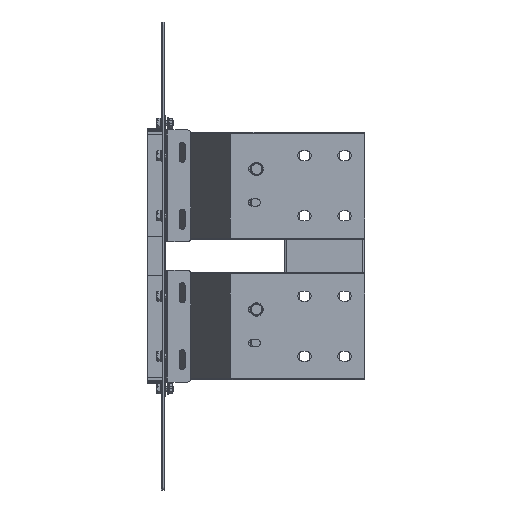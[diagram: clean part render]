
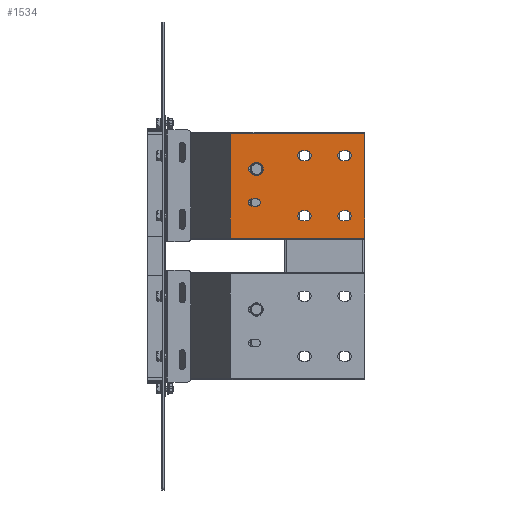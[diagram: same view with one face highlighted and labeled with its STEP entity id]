
A CAD part, front view. The second image highlights one B-rep face of the part: STEP entity #1534.
In plain terms, the highlighted planar face has unit normal (0, -1, 0).
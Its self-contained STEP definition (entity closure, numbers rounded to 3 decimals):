
#1290=AXIS2_PLACEMENT_3D('Circle Axis2P3D',#1288,#1289,$) ;
#1310=AXIS2_PLACEMENT_3D('Plane Axis2P3D',#1307,#1308,#1309) ;
#1348=AXIS2_PLACEMENT_3D('Circle Axis2P3D',#1346,#1347,$) ;
#1366=AXIS2_PLACEMENT_3D('Circle Axis2P3D',#1364,#1365,$) ;
#1382=AXIS2_PLACEMENT_3D('Circle Axis2P3D',#1380,#1381,$) ;
#1400=AXIS2_PLACEMENT_3D('Circle Axis2P3D',#1398,#1399,$) ;
#1416=AXIS2_PLACEMENT_3D('Circle Axis2P3D',#1414,#1415,$) ;
#1443=AXIS2_PLACEMENT_3D('Circle Axis2P3D',#1441,#1442,$) ;
#1457=AXIS2_PLACEMENT_3D('Circle Axis2P3D',#1455,#1456,$) ;
#1468=AXIS2_PLACEMENT_3D('Circle Axis2P3D',#1466,#1467,$) ;
#1484=AXIS2_PLACEMENT_3D('Circle Axis2P3D',#1482,#1483,$) ;
#1502=AXIS2_PLACEMENT_3D('Circle Axis2P3D',#1500,#1501,$) ;
#1518=AXIS2_PLACEMENT_3D('Circle Axis2P3D',#1516,#1517,$) ;
#1254=CARTESIAN_POINT('Vertex',(212.5,-216.75,52.5)) ;
#1257=CARTESIAN_POINT('Line Origine',(210.,-216.75,52.5)) ;
#1261=CARTESIAN_POINT('Vertex',(207.5,-216.75,52.5)) ;
#1288=CARTESIAN_POINT('Axis2P3D Location',(207.5,-216.75,45.)) ;
#1292=CARTESIAN_POINT('Vertex',(207.5,-216.75,37.5)) ;
#1307=CARTESIAN_POINT('Axis2P3D Location',(300.,-216.75,-78.25)) ;
#1312=CARTESIAN_POINT('Line Origine',(199.425,-216.75,-78.25)) ;
#1316=CARTESIAN_POINT('Vertex',(300.,-216.75,-78.25)) ;
#1318=CARTESIAN_POINT('Vertex',(98.849,-216.75,-78.25)) ;
#1321=CARTESIAN_POINT('Line Origine',(300.,-216.75,0.)) ;
#1325=CARTESIAN_POINT('Vertex',(300.,-216.75,78.25)) ;
#1328=CARTESIAN_POINT('Line Origine',(199.425,-216.75,78.25)) ;
#1332=CARTESIAN_POINT('Vertex',(98.849,-216.75,78.25)) ;
#1335=CARTESIAN_POINT('Line Origine',(98.849,-216.75,0.)) ;
#1346=CARTESIAN_POINT('Axis2P3D Location',(212.5,-216.75,45.)) ;
#1350=CARTESIAN_POINT('Vertex',(212.5,-216.75,37.5)) ;
#1353=CARTESIAN_POINT('Line Origine',(210.,-216.75,37.5)) ;
#1364=CARTESIAN_POINT('Axis2P3D Location',(272.5,-216.75,45.)) ;
#1368=CARTESIAN_POINT('Vertex',(272.5,-216.75,37.5)) ;
#1370=CARTESIAN_POINT('Vertex',(272.5,-216.75,52.5)) ;
#1373=CARTESIAN_POINT('Line Origine',(270.,-216.75,37.5)) ;
#1377=CARTESIAN_POINT('Vertex',(267.5,-216.75,37.5)) ;
#1380=CARTESIAN_POINT('Axis2P3D Location',(267.5,-216.75,45.)) ;
#1384=CARTESIAN_POINT('Vertex',(267.5,-216.75,52.5)) ;
#1387=CARTESIAN_POINT('Line Origine',(270.,-216.75,52.5)) ;
#1398=CARTESIAN_POINT('Axis2P3D Location',(207.5,-216.75,-45.)) ;
#1402=CARTESIAN_POINT('Vertex',(207.5,-216.75,-37.5)) ;
#1404=CARTESIAN_POINT('Vertex',(207.5,-216.75,-52.5)) ;
#1407=CARTESIAN_POINT('Line Origine',(210.,-216.75,-37.5)) ;
#1411=CARTESIAN_POINT('Vertex',(212.5,-216.75,-37.5)) ;
#1414=CARTESIAN_POINT('Axis2P3D Location',(212.5,-216.75,-45.)) ;
#1418=CARTESIAN_POINT('Vertex',(212.5,-216.75,-52.5)) ;
#1421=CARTESIAN_POINT('Line Origine',(210.,-216.75,-52.5)) ;
#1432=CARTESIAN_POINT('Line Origine',(270.,-216.75,-37.5)) ;
#1436=CARTESIAN_POINT('Vertex',(272.5,-216.75,-37.5)) ;
#1438=CARTESIAN_POINT('Vertex',(267.5,-216.75,-37.5)) ;
#1441=CARTESIAN_POINT('Axis2P3D Location',(272.5,-216.75,-45.)) ;
#1445=CARTESIAN_POINT('Vertex',(272.5,-216.75,-52.5)) ;
#1448=CARTESIAN_POINT('Line Origine',(270.,-216.75,-52.5)) ;
#1452=CARTESIAN_POINT('Vertex',(267.5,-216.75,-52.5)) ;
#1455=CARTESIAN_POINT('Axis2P3D Location',(267.5,-216.75,-45.)) ;
#1466=CARTESIAN_POINT('Axis2P3D Location',(138.5,-216.75,25.)) ;
#1470=CARTESIAN_POINT('Vertex',(138.5,-216.75,19.5)) ;
#1472=CARTESIAN_POINT('Vertex',(138.5,-216.75,30.5)) ;
#1475=CARTESIAN_POINT('Line Origine',(135.,-216.75,19.5)) ;
#1479=CARTESIAN_POINT('Vertex',(131.5,-216.75,19.5)) ;
#1482=CARTESIAN_POINT('Axis2P3D Location',(131.5,-216.75,25.)) ;
#1486=CARTESIAN_POINT('Vertex',(131.5,-216.75,30.5)) ;
#1489=CARTESIAN_POINT('Line Origine',(135.,-216.75,30.5)) ;
#1500=CARTESIAN_POINT('Axis2P3D Location',(131.5,-216.75,-25.)) ;
#1504=CARTESIAN_POINT('Vertex',(131.5,-216.75,-19.5)) ;
#1506=CARTESIAN_POINT('Vertex',(131.5,-216.75,-30.5)) ;
#1509=CARTESIAN_POINT('Line Origine',(135.,-216.75,-19.5)) ;
#1513=CARTESIAN_POINT('Vertex',(138.5,-216.75,-19.5)) ;
#1516=CARTESIAN_POINT('Axis2P3D Location',(138.5,-216.75,-25.)) ;
#1520=CARTESIAN_POINT('Vertex',(138.5,-216.75,-30.5)) ;
#1523=CARTESIAN_POINT('Line Origine',(135.,-216.75,-30.5)) ;
#1258=DIRECTION('Vector Direction',(1.,0.,0.)) ;
#1289=DIRECTION('Axis2P3D Direction',(0.,-1.,0.)) ;
#1308=DIRECTION('Axis2P3D Direction',(0.,-1.,0.)) ;
#1309=DIRECTION('Axis2P3D XDirection',(0.,0.,1.)) ;
#1313=DIRECTION('Vector Direction',(-1.,0.,0.)) ;
#1322=DIRECTION('Vector Direction',(0.,0.,1.)) ;
#1329=DIRECTION('Vector Direction',(-1.,0.,0.)) ;
#1336=DIRECTION('Vector Direction',(0.,0.,1.)) ;
#1347=DIRECTION('Axis2P3D Direction',(0.,-1.,0.)) ;
#1354=DIRECTION('Vector Direction',(-1.,0.,0.)) ;
#1365=DIRECTION('Axis2P3D Direction',(0.,-1.,0.)) ;
#1374=DIRECTION('Vector Direction',(1.,0.,0.)) ;
#1381=DIRECTION('Axis2P3D Direction',(0.,-1.,0.)) ;
#1388=DIRECTION('Vector Direction',(-1.,0.,0.)) ;
#1399=DIRECTION('Axis2P3D Direction',(0.,-1.,0.)) ;
#1408=DIRECTION('Vector Direction',(-1.,0.,0.)) ;
#1415=DIRECTION('Axis2P3D Direction',(0.,-1.,0.)) ;
#1422=DIRECTION('Vector Direction',(1.,0.,0.)) ;
#1433=DIRECTION('Vector Direction',(1.,0.,0.)) ;
#1442=DIRECTION('Axis2P3D Direction',(0.,-1.,0.)) ;
#1449=DIRECTION('Vector Direction',(-1.,0.,0.)) ;
#1456=DIRECTION('Axis2P3D Direction',(0.,-1.,0.)) ;
#1467=DIRECTION('Axis2P3D Direction',(0.,-1.,0.)) ;
#1476=DIRECTION('Vector Direction',(-1.,0.,0.)) ;
#1483=DIRECTION('Axis2P3D Direction',(0.,-1.,0.)) ;
#1490=DIRECTION('Vector Direction',(1.,0.,0.)) ;
#1501=DIRECTION('Axis2P3D Direction',(0.,-1.,0.)) ;
#1510=DIRECTION('Vector Direction',(-1.,0.,0.)) ;
#1517=DIRECTION('Axis2P3D Direction',(0.,-1.,0.)) ;
#1524=DIRECTION('Vector Direction',(1.,0.,0.)) ;
#1259=VECTOR('Line Direction',#1258,1.) ;
#1314=VECTOR('Line Direction',#1313,1.) ;
#1323=VECTOR('Line Direction',#1322,1.) ;
#1330=VECTOR('Line Direction',#1329,1.) ;
#1337=VECTOR('Line Direction',#1336,1.) ;
#1355=VECTOR('Line Direction',#1354,1.) ;
#1375=VECTOR('Line Direction',#1374,1.) ;
#1389=VECTOR('Line Direction',#1388,1.) ;
#1409=VECTOR('Line Direction',#1408,1.) ;
#1423=VECTOR('Line Direction',#1422,1.) ;
#1434=VECTOR('Line Direction',#1433,1.) ;
#1450=VECTOR('Line Direction',#1449,1.) ;
#1477=VECTOR('Line Direction',#1476,1.) ;
#1491=VECTOR('Line Direction',#1490,1.) ;
#1511=VECTOR('Line Direction',#1510,1.) ;
#1525=VECTOR('Line Direction',#1524,1.) ;
#1341=ORIENTED_EDGE('',*,*,#1320,.F.) ;
#1342=ORIENTED_EDGE('',*,*,#1327,.F.) ;
#1343=ORIENTED_EDGE('',*,*,#1334,.T.) ;
#1344=ORIENTED_EDGE('',*,*,#1339,.F.) ;
#1359=ORIENTED_EDGE('',*,*,#1352,.F.) ;
#1360=ORIENTED_EDGE('',*,*,#1357,.F.) ;
#1361=ORIENTED_EDGE('',*,*,#1294,.F.) ;
#1362=ORIENTED_EDGE('',*,*,#1263,.F.) ;
#1393=ORIENTED_EDGE('',*,*,#1372,.F.) ;
#1394=ORIENTED_EDGE('',*,*,#1379,.F.) ;
#1395=ORIENTED_EDGE('',*,*,#1386,.F.) ;
#1396=ORIENTED_EDGE('',*,*,#1391,.F.) ;
#1427=ORIENTED_EDGE('',*,*,#1406,.F.) ;
#1428=ORIENTED_EDGE('',*,*,#1413,.F.) ;
#1429=ORIENTED_EDGE('',*,*,#1420,.F.) ;
#1430=ORIENTED_EDGE('',*,*,#1425,.F.) ;
#1461=ORIENTED_EDGE('',*,*,#1440,.F.) ;
#1462=ORIENTED_EDGE('',*,*,#1447,.F.) ;
#1463=ORIENTED_EDGE('',*,*,#1454,.F.) ;
#1464=ORIENTED_EDGE('',*,*,#1459,.F.) ;
#1495=ORIENTED_EDGE('',*,*,#1474,.F.) ;
#1496=ORIENTED_EDGE('',*,*,#1481,.F.) ;
#1497=ORIENTED_EDGE('',*,*,#1488,.F.) ;
#1498=ORIENTED_EDGE('',*,*,#1493,.F.) ;
#1529=ORIENTED_EDGE('',*,*,#1508,.F.) ;
#1530=ORIENTED_EDGE('',*,*,#1515,.F.) ;
#1531=ORIENTED_EDGE('',*,*,#1522,.F.) ;
#1532=ORIENTED_EDGE('',*,*,#1527,.F.) ;
#1363=FACE_BOUND('',#1358,.T.) ;
#1397=FACE_BOUND('',#1392,.T.) ;
#1431=FACE_BOUND('',#1426,.T.) ;
#1465=FACE_BOUND('',#1460,.T.) ;
#1499=FACE_BOUND('',#1494,.T.) ;
#1533=FACE_BOUND('',#1528,.T.) ;
#1534=ADVANCED_FACE('N',(#1345,#1363,#1397,#1431,#1465,#1499,#1533),#1311,.T.) ;
#1291=CIRCLE('generated circle',#1290,7.5) ;
#1349=CIRCLE('generated circle',#1348,7.5) ;
#1367=CIRCLE('generated circle',#1366,7.5) ;
#1383=CIRCLE('generated circle',#1382,7.5) ;
#1401=CIRCLE('generated circle',#1400,7.5) ;
#1417=CIRCLE('generated circle',#1416,7.5) ;
#1444=CIRCLE('generated circle',#1443,7.5) ;
#1458=CIRCLE('generated circle',#1457,7.5) ;
#1469=CIRCLE('generated circle',#1468,5.5) ;
#1485=CIRCLE('generated circle',#1484,5.5) ;
#1503=CIRCLE('generated circle',#1502,5.5) ;
#1519=CIRCLE('generated circle',#1518,5.5) ;
#1263=EDGE_CURVE('',#1255,#1262,#1260,.F.) ;
#1294=EDGE_CURVE('',#1262,#1293,#1291,.T.) ;
#1320=EDGE_CURVE('',#1317,#1319,#1315,.T.) ;
#1327=EDGE_CURVE('',#1326,#1317,#1324,.F.) ;
#1334=EDGE_CURVE('',#1326,#1333,#1331,.T.) ;
#1339=EDGE_CURVE('',#1319,#1333,#1338,.T.) ;
#1352=EDGE_CURVE('',#1351,#1255,#1349,.T.) ;
#1357=EDGE_CURVE('',#1293,#1351,#1356,.F.) ;
#1372=EDGE_CURVE('',#1369,#1371,#1367,.T.) ;
#1379=EDGE_CURVE('',#1378,#1369,#1376,.T.) ;
#1386=EDGE_CURVE('',#1385,#1378,#1383,.T.) ;
#1391=EDGE_CURVE('',#1371,#1385,#1390,.T.) ;
#1406=EDGE_CURVE('',#1403,#1405,#1401,.T.) ;
#1413=EDGE_CURVE('',#1412,#1403,#1410,.T.) ;
#1420=EDGE_CURVE('',#1419,#1412,#1417,.T.) ;
#1425=EDGE_CURVE('',#1405,#1419,#1424,.T.) ;
#1440=EDGE_CURVE('',#1437,#1439,#1435,.F.) ;
#1447=EDGE_CURVE('',#1446,#1437,#1444,.T.) ;
#1454=EDGE_CURVE('',#1453,#1446,#1451,.F.) ;
#1459=EDGE_CURVE('',#1439,#1453,#1458,.T.) ;
#1474=EDGE_CURVE('',#1471,#1473,#1469,.T.) ;
#1481=EDGE_CURVE('',#1480,#1471,#1478,.F.) ;
#1488=EDGE_CURVE('',#1487,#1480,#1485,.T.) ;
#1493=EDGE_CURVE('',#1473,#1487,#1492,.F.) ;
#1508=EDGE_CURVE('',#1505,#1507,#1503,.T.) ;
#1515=EDGE_CURVE('',#1514,#1505,#1512,.T.) ;
#1522=EDGE_CURVE('',#1521,#1514,#1519,.T.) ;
#1527=EDGE_CURVE('',#1507,#1521,#1526,.T.) ;
#1340=EDGE_LOOP('',(#1341,#1342,#1343,#1344)) ;
#1358=EDGE_LOOP('',(#1359,#1360,#1361,#1362)) ;
#1392=EDGE_LOOP('',(#1393,#1394,#1395,#1396)) ;
#1426=EDGE_LOOP('',(#1427,#1428,#1429,#1430)) ;
#1460=EDGE_LOOP('',(#1461,#1462,#1463,#1464)) ;
#1494=EDGE_LOOP('',(#1495,#1496,#1497,#1498)) ;
#1528=EDGE_LOOP('',(#1529,#1530,#1531,#1532)) ;
#1345=FACE_OUTER_BOUND('',#1340,.T.) ;
#1260=LINE('Line',#1257,#1259) ;
#1315=LINE('Line',#1312,#1314) ;
#1324=LINE('Line',#1321,#1323) ;
#1331=LINE('Line',#1328,#1330) ;
#1338=LINE('Line',#1335,#1337) ;
#1356=LINE('Line',#1353,#1355) ;
#1376=LINE('Line',#1373,#1375) ;
#1390=LINE('Line',#1387,#1389) ;
#1410=LINE('Line',#1407,#1409) ;
#1424=LINE('Line',#1421,#1423) ;
#1435=LINE('Line',#1432,#1434) ;
#1451=LINE('Line',#1448,#1450) ;
#1478=LINE('Line',#1475,#1477) ;
#1492=LINE('Line',#1489,#1491) ;
#1512=LINE('Line',#1509,#1511) ;
#1526=LINE('Line',#1523,#1525) ;
#1311=PLANE('',#1310) ;
#1255=VERTEX_POINT('',#1254) ;
#1262=VERTEX_POINT('',#1261) ;
#1293=VERTEX_POINT('',#1292) ;
#1317=VERTEX_POINT('',#1316) ;
#1319=VERTEX_POINT('',#1318) ;
#1326=VERTEX_POINT('',#1325) ;
#1333=VERTEX_POINT('',#1332) ;
#1351=VERTEX_POINT('',#1350) ;
#1369=VERTEX_POINT('',#1368) ;
#1371=VERTEX_POINT('',#1370) ;
#1378=VERTEX_POINT('',#1377) ;
#1385=VERTEX_POINT('',#1384) ;
#1403=VERTEX_POINT('',#1402) ;
#1405=VERTEX_POINT('',#1404) ;
#1412=VERTEX_POINT('',#1411) ;
#1419=VERTEX_POINT('',#1418) ;
#1437=VERTEX_POINT('',#1436) ;
#1439=VERTEX_POINT('',#1438) ;
#1446=VERTEX_POINT('',#1445) ;
#1453=VERTEX_POINT('',#1452) ;
#1471=VERTEX_POINT('',#1470) ;
#1473=VERTEX_POINT('',#1472) ;
#1480=VERTEX_POINT('',#1479) ;
#1487=VERTEX_POINT('',#1486) ;
#1505=VERTEX_POINT('',#1504) ;
#1507=VERTEX_POINT('',#1506) ;
#1514=VERTEX_POINT('',#1513) ;
#1521=VERTEX_POINT('',#1520) ;
